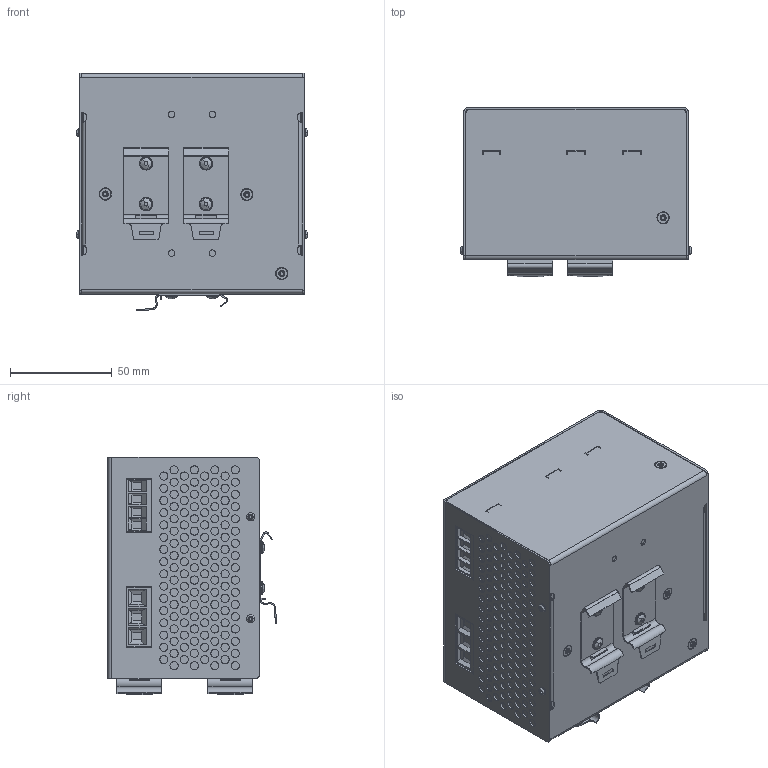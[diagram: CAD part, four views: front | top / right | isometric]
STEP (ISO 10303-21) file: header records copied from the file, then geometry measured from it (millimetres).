
FILE_DESCRIPTION (( 'STEP AP214' ), '1' );
FILE_NAME ('WEPS160_3D_x_download_from_the_site.STEP', '2014-09-01T13:18:09', ( 'michele' ), ( 'Microsoft' ), 'SwSTEP 2.0', 'SolidWorks 2014', '' );
FILE_SCHEMA (( 'AUTOMOTIVE_DESIGN' ));
Length unit declared in the file: millimetre
Products named in the file (1): WEPS160_3D_x_download_from_the_site
Bounding box: 113.15 x 83 x 116.55 mm (x, y, z)
Volume: 868547.7 mm3; surface area: 91054.4 mm2
Topology: 1 solids, 13 shells, 1868 faces, 5212 edges, 3430 vertices
Faces by surface type: cylinder 1119, plane 599, bspline 102, cone 28, torus 20
Entity records: 69991 total; most frequent: CARTESIAN_POINT 15487, DIRECTION 11117, ORIENTED_EDGE 10424, EDGE_CURVE 5212, AXIS2_PLACEMENT_3D 4352, VERTEX_POINT 3430, EDGE_LOOP 2644, CIRCLE 2585
